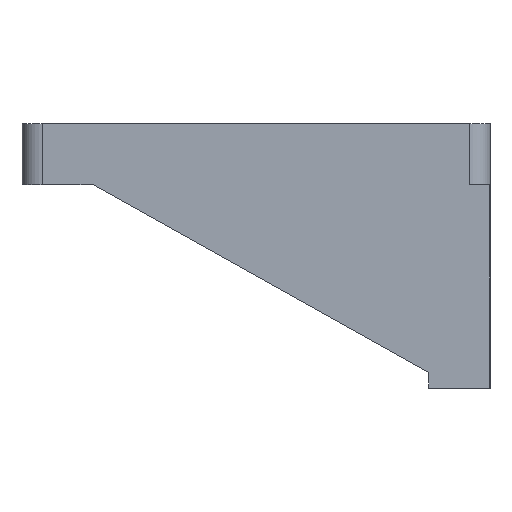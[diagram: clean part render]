
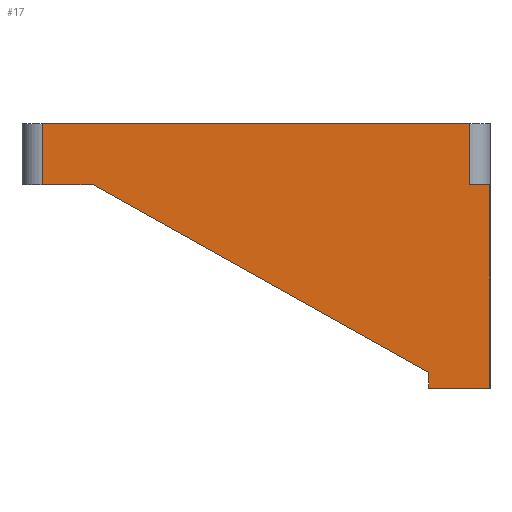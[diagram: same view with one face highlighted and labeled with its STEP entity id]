
A CAD part, left-side view. The second image highlights one B-rep face of the part: STEP entity #17.
In plain terms, the highlighted planar face has unit normal (-1, 0, 0).
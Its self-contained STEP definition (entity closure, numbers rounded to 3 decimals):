
#17 = ADVANCED_FACE('',(#18),#32,.F.);
#18 = FACE_BOUND('',#19,.F.);
#19 = EDGE_LOOP('',(#20,#55,#83,#111,#139,#167,#195,#223,#251));
#20 = ORIENTED_EDGE('',*,*,#21,.F.);
#21 = EDGE_CURVE('',#22,#24,#26,.T.);
#22 = VERTEX_POINT('',#23);
#23 = CARTESIAN_POINT('',(-32.,0.,10.));
#24 = VERTEX_POINT('',#25);
#25 = CARTESIAN_POINT('',(-32.,2.,10.));
#26 = SURFACE_CURVE('',#27,(#31,#43),.PCURVE_S1.);
#27 = LINE('',#28,#29);
#28 = CARTESIAN_POINT('',(-32.,0.,10.));
#29 = VECTOR('',#30,1.);
#30 = DIRECTION('',(0.,1.,0.));
#31 = PCURVE('',#32,#37);
#32 = PLANE('',#33);
#33 = AXIS2_PLACEMENT_3D('',#34,#35,#36);
#34 = CARTESIAN_POINT('',(-32.,0.,-10.));
#35 = DIRECTION('',(1.,0.,0.));
#36 = DIRECTION('',(0.,0.,1.));
#37 = DEFINITIONAL_REPRESENTATION('',(#38),#42);
#38 = LINE('',#39,#40);
#39 = CARTESIAN_POINT('',(20.,0.));
#40 = VECTOR('',#41,1.);
#41 = DIRECTION('',(0.,-1.));
#42 = ( GEOMETRIC_REPRESENTATION_CONTEXT(2) 
PARAMETRIC_REPRESENTATION_CONTEXT() REPRESENTATION_CONTEXT('2D SPACE',''
  ) );
#43 = PCURVE('',#44,#49);
#44 = PLANE('',#45);
#45 = AXIS2_PLACEMENT_3D('',#46,#47,#48);
#46 = CARTESIAN_POINT('',(-32.,0.,10.));
#47 = DIRECTION('',(0.,0.,1.));
#48 = DIRECTION('',(1.,0.,0.));
#49 = DEFINITIONAL_REPRESENTATION('',(#50),#54);
#50 = LINE('',#51,#52);
#51 = CARTESIAN_POINT('',(0.,0.));
#52 = VECTOR('',#53,1.);
#53 = DIRECTION('',(0.,1.));
#54 = ( GEOMETRIC_REPRESENTATION_CONTEXT(2) 
PARAMETRIC_REPRESENTATION_CONTEXT() REPRESENTATION_CONTEXT('2D SPACE',''
  ) );
#55 = ORIENTED_EDGE('',*,*,#56,.F.);
#56 = EDGE_CURVE('',#57,#22,#59,.T.);
#57 = VERTEX_POINT('',#58);
#58 = CARTESIAN_POINT('',(-32.,0.,-10.));
#59 = SURFACE_CURVE('',#60,(#64,#71),.PCURVE_S1.);
#60 = LINE('',#61,#62);
#61 = CARTESIAN_POINT('',(-32.,0.,-10.));
#62 = VECTOR('',#63,1.);
#63 = DIRECTION('',(0.,0.,1.));
#64 = PCURVE('',#32,#65);
#65 = DEFINITIONAL_REPRESENTATION('',(#66),#70);
#66 = LINE('',#67,#68);
#67 = CARTESIAN_POINT('',(0.,0.));
#68 = VECTOR('',#69,1.);
#69 = DIRECTION('',(1.,0.));
#70 = ( GEOMETRIC_REPRESENTATION_CONTEXT(2) 
PARAMETRIC_REPRESENTATION_CONTEXT() REPRESENTATION_CONTEXT('2D SPACE',''
  ) );
#71 = PCURVE('',#72,#77);
#72 = PLANE('',#73);
#73 = AXIS2_PLACEMENT_3D('',#74,#75,#76);
#74 = CARTESIAN_POINT('',(-32.,0.,-10.));
#75 = DIRECTION('',(0.,1.,0.));
#76 = DIRECTION('',(0.,0.,1.));
#77 = DEFINITIONAL_REPRESENTATION('',(#78),#82);
#78 = LINE('',#79,#80);
#79 = CARTESIAN_POINT('',(0.,0.));
#80 = VECTOR('',#81,1.);
#81 = DIRECTION('',(1.,0.));
#82 = ( GEOMETRIC_REPRESENTATION_CONTEXT(2) 
PARAMETRIC_REPRESENTATION_CONTEXT() REPRESENTATION_CONTEXT('2D SPACE',''
  ) );
#83 = ORIENTED_EDGE('',*,*,#84,.T.);
#84 = EDGE_CURVE('',#57,#85,#87,.T.);
#85 = VERTEX_POINT('',#86);
#86 = CARTESIAN_POINT('',(-32.,6.,-10.));
#87 = SURFACE_CURVE('',#88,(#92,#99),.PCURVE_S1.);
#88 = LINE('',#89,#90);
#89 = CARTESIAN_POINT('',(-32.,0.,-10.));
#90 = VECTOR('',#91,1.);
#91 = DIRECTION('',(0.,1.,0.));
#92 = PCURVE('',#32,#93);
#93 = DEFINITIONAL_REPRESENTATION('',(#94),#98);
#94 = LINE('',#95,#96);
#95 = CARTESIAN_POINT('',(0.,0.));
#96 = VECTOR('',#97,1.);
#97 = DIRECTION('',(0.,-1.));
#98 = ( GEOMETRIC_REPRESENTATION_CONTEXT(2) 
PARAMETRIC_REPRESENTATION_CONTEXT() REPRESENTATION_CONTEXT('2D SPACE',''
  ) );
#99 = PCURVE('',#100,#105);
#100 = PLANE('',#101);
#101 = AXIS2_PLACEMENT_3D('',#102,#103,#104);
#102 = CARTESIAN_POINT('',(-32.,0.,-10.));
#103 = DIRECTION('',(0.,0.,1.));
#104 = DIRECTION('',(1.,0.,0.));
#105 = DEFINITIONAL_REPRESENTATION('',(#106),#110);
#106 = LINE('',#107,#108);
#107 = CARTESIAN_POINT('',(0.,0.));
#108 = VECTOR('',#109,1.);
#109 = DIRECTION('',(0.,1.));
#110 = ( GEOMETRIC_REPRESENTATION_CONTEXT(2) 
PARAMETRIC_REPRESENTATION_CONTEXT() REPRESENTATION_CONTEXT('2D SPACE',''
  ) );
#111 = ORIENTED_EDGE('',*,*,#112,.T.);
#112 = EDGE_CURVE('',#85,#113,#115,.T.);
#113 = VERTEX_POINT('',#114);
#114 = CARTESIAN_POINT('',(-32.,6.,-8.441));
#115 = SURFACE_CURVE('',#116,(#120,#127),.PCURVE_S1.);
#116 = LINE('',#117,#118);
#117 = CARTESIAN_POINT('',(-32.,6.,-10.));
#118 = VECTOR('',#119,1.);
#119 = DIRECTION('',(0.,0.,1.));
#120 = PCURVE('',#32,#121);
#121 = DEFINITIONAL_REPRESENTATION('',(#122),#126);
#122 = LINE('',#123,#124);
#123 = CARTESIAN_POINT('',(0.,-6.));
#124 = VECTOR('',#125,1.);
#125 = DIRECTION('',(1.,0.));
#126 = ( GEOMETRIC_REPRESENTATION_CONTEXT(2) 
PARAMETRIC_REPRESENTATION_CONTEXT() REPRESENTATION_CONTEXT('2D SPACE',''
  ) );
#127 = PCURVE('',#128,#133);
#128 = PLANE('',#129);
#129 = AXIS2_PLACEMENT_3D('',#130,#131,#132);
#130 = CARTESIAN_POINT('',(-32.,6.,-10.));
#131 = DIRECTION('',(0.,1.,0.));
#132 = DIRECTION('',(0.,0.,1.));
#133 = DEFINITIONAL_REPRESENTATION('',(#134),#138);
#134 = LINE('',#135,#136);
#135 = CARTESIAN_POINT('',(0.,0.));
#136 = VECTOR('',#137,1.);
#137 = DIRECTION('',(1.,0.));
#138 = ( GEOMETRIC_REPRESENTATION_CONTEXT(2) 
PARAMETRIC_REPRESENTATION_CONTEXT() REPRESENTATION_CONTEXT('2D SPACE',''
  ) );
#139 = ORIENTED_EDGE('',*,*,#140,.T.);
#140 = EDGE_CURVE('',#113,#141,#143,.T.);
#141 = VERTEX_POINT('',#142);
#142 = CARTESIAN_POINT('',(-32.,39.,10.));
#143 = SURFACE_CURVE('',#144,(#148,#155),.PCURVE_S1.);
#144 = LINE('',#145,#146);
#145 = CARTESIAN_POINT('',(-32.,5.,-9.));
#146 = VECTOR('',#147,1.);
#147 = DIRECTION('',(0.,0.873,0.488));
#148 = PCURVE('',#32,#149);
#149 = DEFINITIONAL_REPRESENTATION('',(#150),#154);
#150 = LINE('',#151,#152);
#151 = CARTESIAN_POINT('',(1.,-5.));
#152 = VECTOR('',#153,1.);
#153 = DIRECTION('',(0.488,-0.873));
#154 = ( GEOMETRIC_REPRESENTATION_CONTEXT(2) 
PARAMETRIC_REPRESENTATION_CONTEXT() REPRESENTATION_CONTEXT('2D SPACE',''
  ) );
#155 = PCURVE('',#156,#161);
#156 = PLANE('',#157);
#157 = AXIS2_PLACEMENT_3D('',#158,#159,#160);
#158 = CARTESIAN_POINT('',(-32.,5.,-9.));
#159 = DIRECTION('',(0.,-0.488,0.873));
#160 = DIRECTION('',(0.,0.873,0.488));
#161 = DEFINITIONAL_REPRESENTATION('',(#162),#166);
#162 = LINE('',#163,#164);
#163 = CARTESIAN_POINT('',(0.,0.));
#164 = VECTOR('',#165,1.);
#165 = DIRECTION('',(1.,0.));
#166 = ( GEOMETRIC_REPRESENTATION_CONTEXT(2) 
PARAMETRIC_REPRESENTATION_CONTEXT() REPRESENTATION_CONTEXT('2D SPACE',''
  ) );
#167 = ORIENTED_EDGE('',*,*,#168,.T.);
#168 = EDGE_CURVE('',#141,#169,#171,.T.);
#169 = VERTEX_POINT('',#170);
#170 = CARTESIAN_POINT('',(-32.,44.,10.));
#171 = SURFACE_CURVE('',#172,(#176,#183),.PCURVE_S1.);
#172 = LINE('',#173,#174);
#173 = CARTESIAN_POINT('',(-32.,0.,10.));
#174 = VECTOR('',#175,1.);
#175 = DIRECTION('',(0.,1.,0.));
#176 = PCURVE('',#32,#177);
#177 = DEFINITIONAL_REPRESENTATION('',(#178),#182);
#178 = LINE('',#179,#180);
#179 = CARTESIAN_POINT('',(20.,0.));
#180 = VECTOR('',#181,1.);
#181 = DIRECTION('',(0.,-1.));
#182 = ( GEOMETRIC_REPRESENTATION_CONTEXT(2) 
PARAMETRIC_REPRESENTATION_CONTEXT() REPRESENTATION_CONTEXT('2D SPACE',''
  ) );
#183 = PCURVE('',#184,#189);
#184 = PLANE('',#185);
#185 = AXIS2_PLACEMENT_3D('',#186,#187,#188);
#186 = CARTESIAN_POINT('',(-32.,0.,10.));
#187 = DIRECTION('',(0.,0.,1.));
#188 = DIRECTION('',(1.,0.,0.));
#189 = DEFINITIONAL_REPRESENTATION('',(#190),#194);
#190 = LINE('',#191,#192);
#191 = CARTESIAN_POINT('',(0.,0.));
#192 = VECTOR('',#193,1.);
#193 = DIRECTION('',(0.,1.));
#194 = ( GEOMETRIC_REPRESENTATION_CONTEXT(2) 
PARAMETRIC_REPRESENTATION_CONTEXT() REPRESENTATION_CONTEXT('2D SPACE',''
  ) );
#195 = ORIENTED_EDGE('',*,*,#196,.T.);
#196 = EDGE_CURVE('',#169,#197,#199,.T.);
#197 = VERTEX_POINT('',#198);
#198 = CARTESIAN_POINT('',(-32.,44.,16.));
#199 = SURFACE_CURVE('',#200,(#204,#211),.PCURVE_S1.);
#200 = LINE('',#201,#202);
#201 = CARTESIAN_POINT('',(-32.,44.,10.));
#202 = VECTOR('',#203,1.);
#203 = DIRECTION('',(0.,0.,1.));
#204 = PCURVE('',#32,#205);
#205 = DEFINITIONAL_REPRESENTATION('',(#206),#210);
#206 = LINE('',#207,#208);
#207 = CARTESIAN_POINT('',(20.,-44.));
#208 = VECTOR('',#209,1.);
#209 = DIRECTION('',(1.,0.));
#210 = ( GEOMETRIC_REPRESENTATION_CONTEXT(2) 
PARAMETRIC_REPRESENTATION_CONTEXT() REPRESENTATION_CONTEXT('2D SPACE',''
  ) );
#211 = PCURVE('',#212,#217);
#212 = CYLINDRICAL_SURFACE('',#213,2.);
#213 = AXIS2_PLACEMENT_3D('',#214,#215,#216);
#214 = CARTESIAN_POINT('',(-30.,44.,10.));
#215 = DIRECTION('',(0.,0.,1.));
#216 = DIRECTION('',(-1.,-0.,0.));
#217 = DEFINITIONAL_REPRESENTATION('',(#218),#222);
#218 = LINE('',#219,#220);
#219 = CARTESIAN_POINT('',(-0.,0.));
#220 = VECTOR('',#221,1.);
#221 = DIRECTION('',(-0.,1.));
#222 = ( GEOMETRIC_REPRESENTATION_CONTEXT(2) 
PARAMETRIC_REPRESENTATION_CONTEXT() REPRESENTATION_CONTEXT('2D SPACE',''
  ) );
#223 = ORIENTED_EDGE('',*,*,#224,.F.);
#224 = EDGE_CURVE('',#225,#197,#227,.T.);
#225 = VERTEX_POINT('',#226);
#226 = CARTESIAN_POINT('',(-32.,2.,16.));
#227 = SURFACE_CURVE('',#228,(#232,#239),.PCURVE_S1.);
#228 = LINE('',#229,#230);
#229 = CARTESIAN_POINT('',(-32.,0.,16.));
#230 = VECTOR('',#231,1.);
#231 = DIRECTION('',(0.,1.,0.));
#232 = PCURVE('',#32,#233);
#233 = DEFINITIONAL_REPRESENTATION('',(#234),#238);
#234 = LINE('',#235,#236);
#235 = CARTESIAN_POINT('',(26.,0.));
#236 = VECTOR('',#237,1.);
#237 = DIRECTION('',(0.,-1.));
#238 = ( GEOMETRIC_REPRESENTATION_CONTEXT(2) 
PARAMETRIC_REPRESENTATION_CONTEXT() REPRESENTATION_CONTEXT('2D SPACE',''
  ) );
#239 = PCURVE('',#240,#245);
#240 = PLANE('',#241);
#241 = AXIS2_PLACEMENT_3D('',#242,#243,#244);
#242 = CARTESIAN_POINT('',(-32.,0.,16.));
#243 = DIRECTION('',(0.,0.,1.));
#244 = DIRECTION('',(1.,0.,0.));
#245 = DEFINITIONAL_REPRESENTATION('',(#246),#250);
#246 = LINE('',#247,#248);
#247 = CARTESIAN_POINT('',(0.,0.));
#248 = VECTOR('',#249,1.);
#249 = DIRECTION('',(0.,1.));
#250 = ( GEOMETRIC_REPRESENTATION_CONTEXT(2) 
PARAMETRIC_REPRESENTATION_CONTEXT() REPRESENTATION_CONTEXT('2D SPACE',''
  ) );
#251 = ORIENTED_EDGE('',*,*,#252,.F.);
#252 = EDGE_CURVE('',#24,#225,#253,.T.);
#253 = SURFACE_CURVE('',#254,(#258,#265),.PCURVE_S1.);
#254 = LINE('',#255,#256);
#255 = CARTESIAN_POINT('',(-32.,2.,10.));
#256 = VECTOR('',#257,1.);
#257 = DIRECTION('',(0.,0.,1.));
#258 = PCURVE('',#32,#259);
#259 = DEFINITIONAL_REPRESENTATION('',(#260),#264);
#260 = LINE('',#261,#262);
#261 = CARTESIAN_POINT('',(20.,-2.));
#262 = VECTOR('',#263,1.);
#263 = DIRECTION('',(1.,0.));
#264 = ( GEOMETRIC_REPRESENTATION_CONTEXT(2) 
PARAMETRIC_REPRESENTATION_CONTEXT() REPRESENTATION_CONTEXT('2D SPACE',''
  ) );
#265 = PCURVE('',#266,#271);
#266 = CYLINDRICAL_SURFACE('',#267,2.);
#267 = AXIS2_PLACEMENT_3D('',#268,#269,#270);
#268 = CARTESIAN_POINT('',(-30.,2.,10.));
#269 = DIRECTION('',(0.,0.,1.));
#270 = DIRECTION('',(-1.,-0.,0.));
#271 = DEFINITIONAL_REPRESENTATION('',(#272),#276);
#272 = LINE('',#273,#274);
#273 = CARTESIAN_POINT('',(0.,0.));
#274 = VECTOR('',#275,1.);
#275 = DIRECTION('',(0.,1.));
#276 = ( GEOMETRIC_REPRESENTATION_CONTEXT(2) 
PARAMETRIC_REPRESENTATION_CONTEXT() REPRESENTATION_CONTEXT('2D SPACE',''
  ) );
